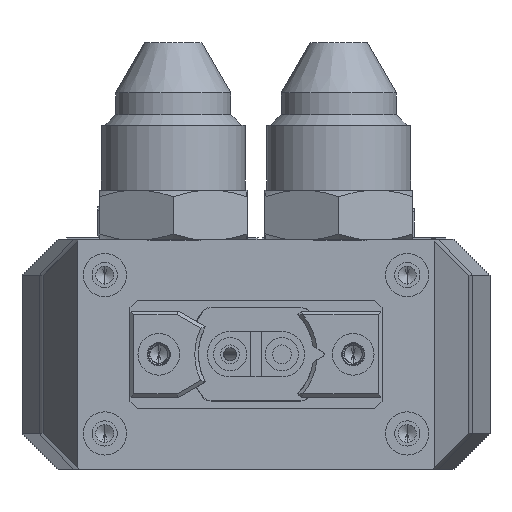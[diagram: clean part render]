
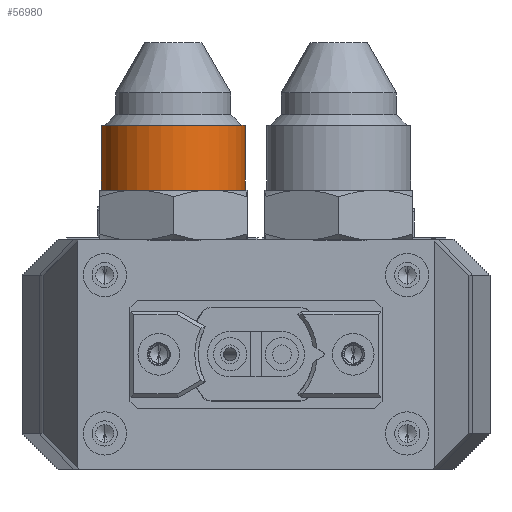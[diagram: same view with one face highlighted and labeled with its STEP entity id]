
A CAD part, front view. The second image highlights one B-rep face of the part: STEP entity #56980.
In plain terms, the highlighted cylindrical face has radius 10 mm (diameter 20 mm), a partial arc.
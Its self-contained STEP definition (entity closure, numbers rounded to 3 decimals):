
#459 = ORIENTED_EDGE ( 'NONE', *, *, #33360, .T. ) ;
#2746 = LINE ( 'NONE', #21559, #5836 ) ;
#5836 = VECTOR ( 'NONE', #16911, 1000. ) ;
#7065 = AXIS2_PLACEMENT_3D ( 'NONE', #38821, #39433, #16850 ) ;
#7080 = CARTESIAN_POINT ( 'NONE',  ( -94.455, -144.23, 1052.575 ) ) ;
#8702 = DIRECTION ( 'NONE',  ( 0., 0., -1. ) ) ;
#8791 = DIRECTION ( 'NONE',  ( 0., 0., 1. ) ) ;
#8931 = ORIENTED_EDGE ( 'NONE', *, *, #28214, .F. ) ;
#10434 = AXIS2_PLACEMENT_3D ( 'NONE', #56970, #8791, #28537 ) ;
#10872 = CARTESIAN_POINT ( 'NONE',  ( -94.455, -144.23, 1021.303 ) ) ;
#11442 = ORIENTED_EDGE ( 'NONE', *, *, #21917, .T. ) ;
#16850 = DIRECTION ( 'NONE',  ( 1., 0., 0. ) ) ;
#16911 = DIRECTION ( 'NONE',  ( 0., 0., 1. ) ) ;
#17285 = EDGE_CURVE ( 'NONE', #49965, #23816, #34120, .T. ) ;
#18758 = VECTOR ( 'NONE', #40134, 1000. ) ;
#20679 = CARTESIAN_POINT ( 'NONE',  ( -74.455, -144.23, 1021.303 ) ) ;
#21559 = CARTESIAN_POINT ( 'NONE',  ( -74.455, -144.23, 1052.575 ) ) ;
#21917 = EDGE_CURVE ( 'NONE', #23816, #30296, #2746, .T. ) ;
#22599 = CARTESIAN_POINT ( 'NONE',  ( -84.455, -144.23, 1030.303 ) ) ;
#23816 = VERTEX_POINT ( 'NONE', #20679 ) ;
#24598 = FACE_OUTER_BOUND ( 'NONE', #36433, .T. ) ;
#28077 = AXIS2_PLACEMENT_3D ( 'NONE', #22599, #8702, #60300 ) ;
#28214 = EDGE_CURVE ( 'NONE', #49965, #50181, #33053, .T. ) ;
#28537 = DIRECTION ( 'NONE',  ( 1., 0., 0. ) ) ;
#30296 = VERTEX_POINT ( 'NONE', #47424 ) ;
#33053 = LINE ( 'NONE', #7080, #18758 ) ;
#33360 = EDGE_CURVE ( 'NONE', #30296, #50181, #40922, .T. ) ;
#34120 = CIRCLE ( 'NONE', #10434, 10. ) ;
#35360 = ORIENTED_EDGE ( 'NONE', *, *, #17285, .T. ) ;
#36433 = EDGE_LOOP ( 'NONE', ( #8931, #35360, #11442, #459 ) ) ;
#38821 = CARTESIAN_POINT ( 'NONE',  ( -84.455, -144.23, 1052.575 ) ) ;
#39433 = DIRECTION ( 'NONE',  ( 0., 0., 1. ) ) ;
#40134 = DIRECTION ( 'NONE',  ( 0., 0., 1. ) ) ;
#40922 = CIRCLE ( 'NONE', #28077, 10. ) ;
#43455 = CYLINDRICAL_SURFACE ( 'NONE', #7065, 10. ) ;
#47424 = CARTESIAN_POINT ( 'NONE',  ( -74.455, -144.23, 1030.303 ) ) ;
#49965 = VERTEX_POINT ( 'NONE', #10872 ) ;
#50181 = VERTEX_POINT ( 'NONE', #59979 ) ;
#56970 = CARTESIAN_POINT ( 'NONE',  ( -84.455, -144.23, 1021.303 ) ) ;
#56980 = ADVANCED_FACE ( 'NONE', ( #24598 ), #43455, .T. ) ;
#59979 = CARTESIAN_POINT ( 'NONE',  ( -94.455, -144.23, 1030.303 ) ) ;
#60300 = DIRECTION ( 'NONE',  ( 1., 0., 0. ) ) ;
